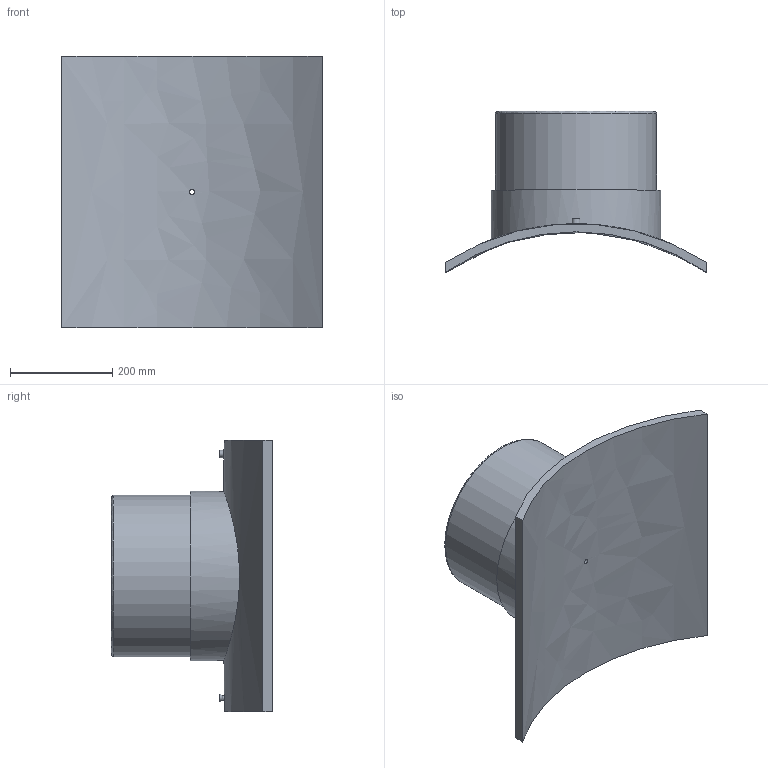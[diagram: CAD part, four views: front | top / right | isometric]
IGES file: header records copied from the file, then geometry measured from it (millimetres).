
Global section: file name: 495803900315T.ipt; native system: Autodesk Inventor 2019; preprocessor: unknown; author: KIM; date: 20210225.095246; units: millimetre
Bounding box: 510 x 315.22 x 530 mm (x, y, z)
Volume: 11717071.5 mm3; surface area: 1035818.8 mm2
Topology: 2 solids, 2 shells, 29 faces, 54 edges, 38 vertices
Faces by surface type: plane 13, revolution 7, cylinder 7, cone 2
Full cylindrical faces by diameter (mm): 4 x2, 16 x1, 315 x1, 330.75 x1
